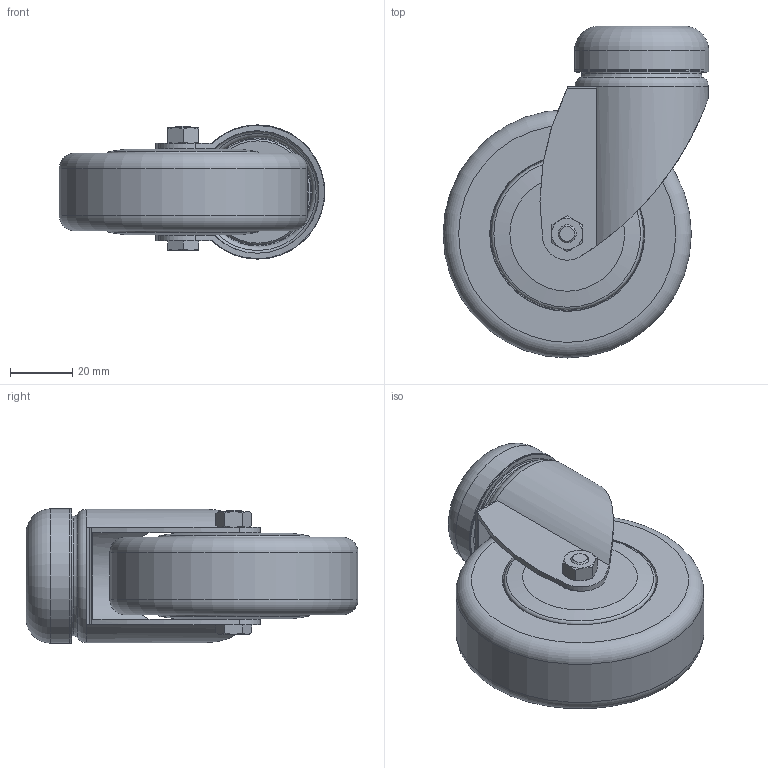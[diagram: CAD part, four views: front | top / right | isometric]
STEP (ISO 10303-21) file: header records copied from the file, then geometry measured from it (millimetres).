
FILE_DESCRIPTION(/* description */ ('INDUSTRIAL CASTOR SS Ø80 H=107'),/* implementation_level */ '2;1');
FILE_NAME(/* name */ '500-1127.stp',/* time_stamp */ '2022-09-16T08:07:51+02:00',/* author */ ('PL'),/* organization */ ('TELLUS 25110'),/* preprocessor_version */ 'ST-DEVELOPER v19.2',/* originating_system */ 'Autodesk Inventor 2023',/* authorisation */ '');
FILE_SCHEMA (('AUTOMOTIVE_DESIGN { 1 0 10303 214 3 1 1 }'));
Length unit declared in the file: millimetre
Products named in the file (1): 500-1127
Bounding box: 85.66 x 107 x 43.31 mm (x, y, z)
Volume: 155363.5 mm3; surface area: 37231.7 mm2
Topology: 1 solids, 4 shells, 124 faces, 283 edges, 180 vertices
Faces by surface type: plane 44, cylinder 31, cone 27, torus 21, bspline 1
Full cylindrical faces by diameter (mm): 6 x3, 8.6 x2, 11 x1, 11.077 x2, 12 x1, 16 x2, 21.2 x1, 33 x1, 38.5 x1, 39.5 x1, 40.312 x1, 43 x1, 43.3 x1, 43.312 x1, 45.102 x2, 50 x2, 80 x1
Entity records: 3682 total; most frequent: CARTESIAN_POINT 794, DIRECTION 644, ORIENTED_EDGE 566, EDGE_CURVE 283, AXIS2_PLACEMENT_3D 281, VERTEX_POINT 180, CIRCLE 157, EDGE_LOOP 147
